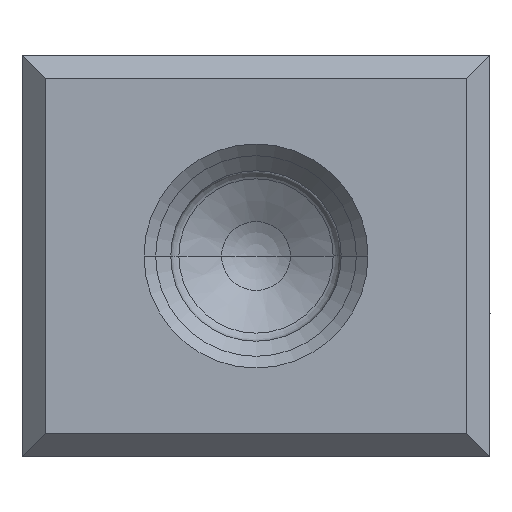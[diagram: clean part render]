
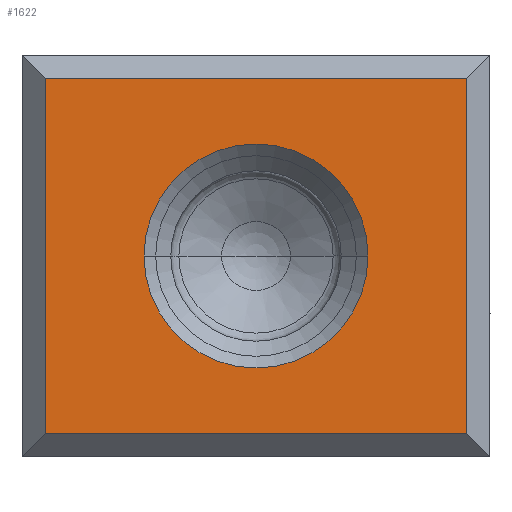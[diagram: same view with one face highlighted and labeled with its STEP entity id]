
A CAD part, left-side view. The second image highlights one B-rep face of the part: STEP entity #1622.
In plain terms, the highlighted planar face has unit normal (-1, 0, 0).
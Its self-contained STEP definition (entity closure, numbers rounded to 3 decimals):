
#198=DIRECTION('',(0.,1.,0.));
#199=VECTOR('',#198,12.6);
#200=CARTESIAN_POINT('',(-22.,0.7,5.3));
#201=LINE('',#200,#199);
#206=DIRECTION('',(0.,0.,-1.));
#207=VECTOR('',#206,10.6);
#208=CARTESIAN_POINT('',(-22.,0.7,5.3));
#209=LINE('',#208,#207);
#210=DIRECTION('',(0.,1.,0.));
#211=VECTOR('',#210,12.6);
#212=CARTESIAN_POINT('',(-22.,0.7,-5.3));
#213=LINE('',#212,#211);
#214=CARTESIAN_POINT('',(-22.,7.,0.));
#215=DIRECTION('',(-1.,0.,0.));
#216=DIRECTION('',(0.,1.,0.));
#217=AXIS2_PLACEMENT_3D('',#214,#215,#216);
#219=CARTESIAN_POINT('',(-22.,7.,0.));
#220=DIRECTION('',(-1.,0.,0.));
#221=DIRECTION('',(0.,-1.,0.));
#222=AXIS2_PLACEMENT_3D('',#219,#220,#221);
#592=DIRECTION('',(0.,0.,-1.));
#593=VECTOR('',#592,10.6);
#594=CARTESIAN_POINT('',(-22.,13.3,5.3));
#595=LINE('',#594,#593);
#1351=CARTESIAN_POINT('',(-22.,0.7,5.3));
#1352=CARTESIAN_POINT('',(-22.,13.3,5.3));
#1353=VERTEX_POINT('',#1351);
#1354=VERTEX_POINT('',#1352);
#1355=CARTESIAN_POINT('',(-22.,0.7,-5.3));
#1356=VERTEX_POINT('',#1355);
#1357=CARTESIAN_POINT('',(-22.,13.3,-5.3));
#1358=VERTEX_POINT('',#1357);
#1359=CARTESIAN_POINT('',(-22.,10.35,0.));
#1360=CARTESIAN_POINT('',(-22.,3.65,0.));
#1361=VERTEX_POINT('',#1359);
#1362=VERTEX_POINT('',#1360);
#1602=CARTESIAN_POINT('',(-22.,14.25,-7.25));
#1603=DIRECTION('',(-1.,0.,0.));
#1604=DIRECTION('',(0.,-1.,0.));
#1605=AXIS2_PLACEMENT_3D('',#1602,#1603,#1604);
#1606=PLANE('',#1605);
#1608=ORIENTED_EDGE('',*,*,#1607,.T.);
#1610=ORIENTED_EDGE('',*,*,#1609,.T.);
#1612=ORIENTED_EDGE('',*,*,#1611,.F.);
#1613=ORIENTED_EDGE('',*,*,#1592,.F.);
#1614=EDGE_LOOP('',(#1608,#1610,#1612,#1613));
#1615=FACE_OUTER_BOUND('',#1614,.F.);
#1617=ORIENTED_EDGE('',*,*,#1616,.T.);
#1619=ORIENTED_EDGE('',*,*,#1618,.T.);
#1620=EDGE_LOOP('',(#1617,#1619));
#1621=FACE_BOUND('',#1620,.F.);
#1622=ADVANCED_FACE('',(#1615,#1621),#1606,.T.);
#218=CIRCLE('',#217,3.35);
#223=CIRCLE('',#222,3.35);
#1592=EDGE_CURVE('',#1353,#1354,#201,.T.);
#1607=EDGE_CURVE('',#1353,#1356,#209,.T.);
#1609=EDGE_CURVE('',#1356,#1358,#213,.T.);
#1611=EDGE_CURVE('',#1354,#1358,#595,.T.);
#1616=EDGE_CURVE('',#1361,#1362,#218,.T.);
#1618=EDGE_CURVE('',#1362,#1361,#223,.T.);
